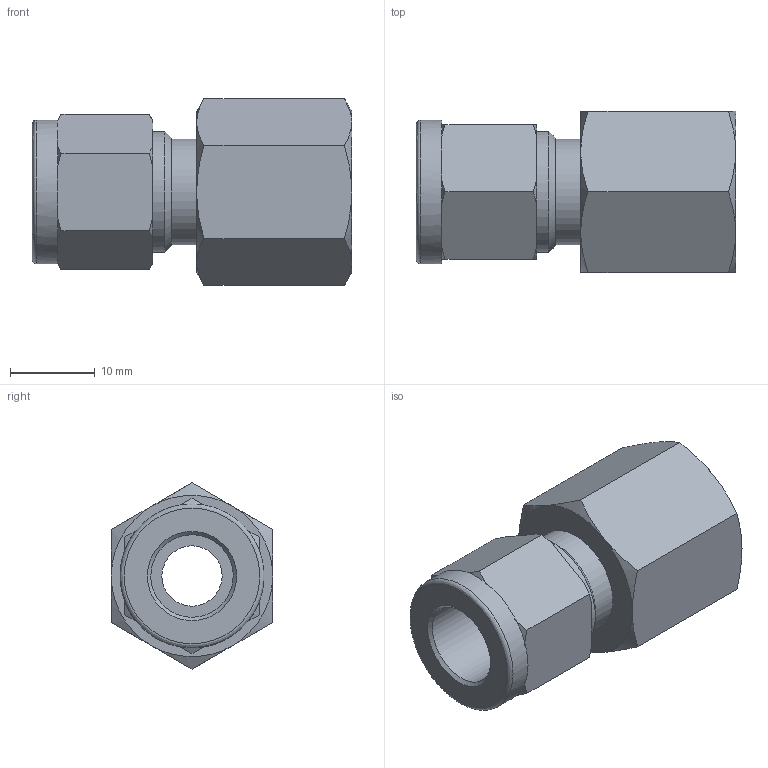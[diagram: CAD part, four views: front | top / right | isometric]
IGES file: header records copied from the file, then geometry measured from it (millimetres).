
Global section: file name: SFC-6-4N; native system: Autodesk Inventor 2016; preprocessor: unknown; author: 배성훈,,11,0; organization: 20151010.074829; date: 20151019.102417; units: millimetre
Bounding box: 37.71 x 19.05 x 22 mm (x, y, z)
Volume: 6034.1 mm3; surface area: 4095.6 mm2
Topology: 1 solids, 1 shells, 59 faces, 145 edges, 92 vertices
Faces by surface type: bspline 59
